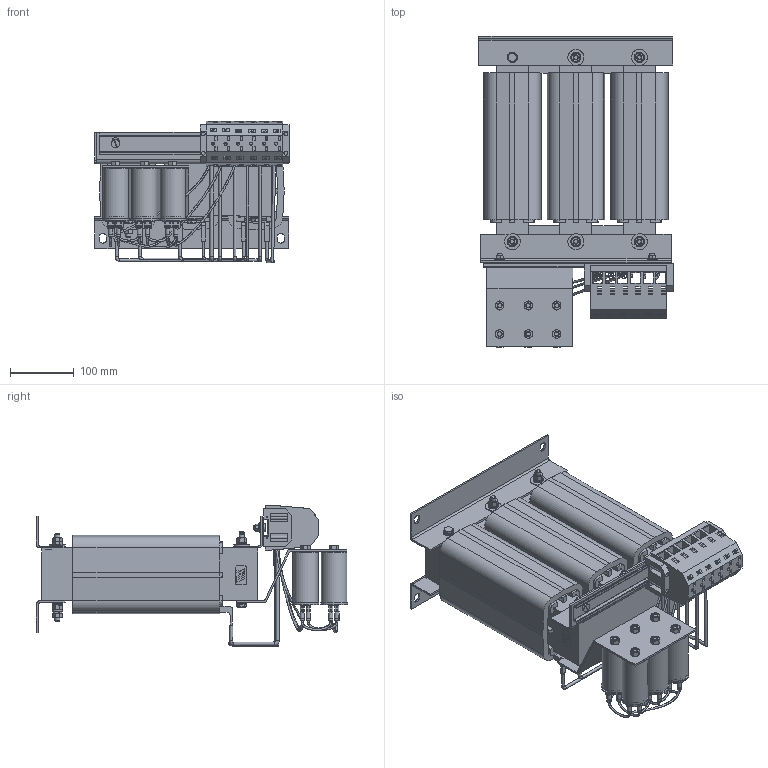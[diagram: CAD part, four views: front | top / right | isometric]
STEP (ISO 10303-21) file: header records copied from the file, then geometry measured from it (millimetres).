
FILE_DESCRIPTION((''),'2;1');
FILE_NAME('K:\PQ\Projects\000062 STEFFI Sinewave filter range\STEFFI FN5040\FN5040-115-87(K)(810297)\70_Realisation_Rev 0\702_MechanicalDesign\3D\FN5040-115-87 ass.stp','2013-03-21T16:35:33',('jingli.yang'),(''),'Autodesk Inventor 2010','Autodesk Inventor 2010','');
FILE_SCHEMA(('AUTOMOTIVE_DESIGN { 1 0 10303 214 1 1 1 1 }'));
Length unit declared in the file: millimetre
Products named in the file (1): 零件1
Bounding box: 305.5 x 489.64 x 222.82 mm (x, y, z)
Volume: 53313 mm3; surface area: 1427156.3 mm2
Topology: 21 solids, 34 shells, 3816 faces, 10300 edges, 6635 vertices
Faces by surface type: plane 2355, cylinder 712, bspline 478, cone 240, torus 31
Full cylindrical faces by diameter (mm): 0.8 x18, 2.5 x12, 2.8 x18, 4 x4, 4.267 x3, 4.412 x4, 4.444 x4, 4.509 x3, 4.512 x4, 4.8 x12, 5 x12, 5.024 x3, 6.8 x12, 7.323 x6, 7.5 x6, 8 x30, 8.2 x1, 8.3 x3, 8.4 x15, 8.5 x2, 8.7 x3, 9 x1, 10 x1, 11 x8, 11.4 x6, 12.5 x12, 13 x2, 14.5 x12, 16 x15, 25 x5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
Entity records: 135291 total; most frequent: CARTESIAN_POINT 39237, ORIENTED_EDGE 19508, DIRECTION 17730, EDGE_CURVE 9766, VECTOR 6692, LINE 6692, VERTEX_POINT 6458, AXIS2_PLACEMENT_3D 5519
